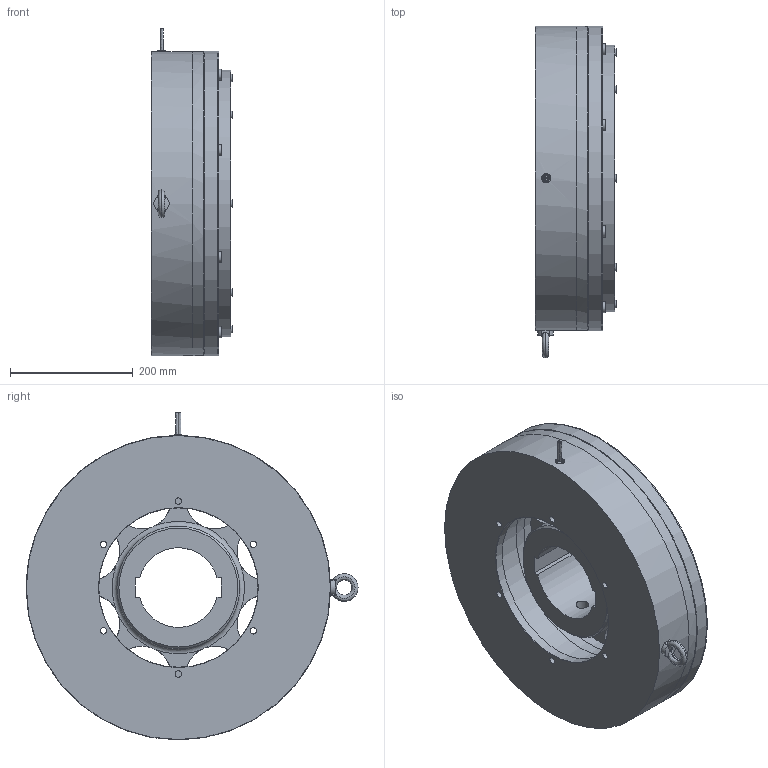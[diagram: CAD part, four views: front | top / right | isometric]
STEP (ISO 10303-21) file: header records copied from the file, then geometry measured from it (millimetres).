
FILE_DESCRIPTION(/* description */ (''),/* implementation_level */ '2;1');
FILE_NAME(/* name */ 'X:\INVENTOR\DISEGNI\08_Freni_Friz_Elettmag_Monodisco\08_28 EMFL_DF\EMFL_DF STEP\08_28_500_13 EMFL500_DF-C-MI@STEP.stp',/* time_stamp */ '2018-04-23T09:41:24+02:00',/* author */ ('stefano'),/* organization */ (''),/* preprocessor_version */ 'ST-DEVELOPER v17',/* originating_system */ 'Autodesk Inventor 2018',/* authorisation */ '');
FILE_SCHEMA (('AUTOMOTIVE_DESIGN { 1 0 10303 214 3 1 1 }'));
Length unit declared in the file: millimetre
Products named in the file (1): 08_28_500_13 EMFL500_DF-C-MI_Substitute_1
Bounding box: 133.5 x 541.5 x 534.72 mm (x, y, z)
Volume: 15912722.5 mm3; surface area: 1322077.8 mm2
Topology: 4 solids, 4 shells, 585 faces, 1739 edges, 1157 vertices
Faces by surface type: cylinder 307, plane 210, cone 52, torus 9, bspline 7
Full cylindrical faces by diameter (mm): 5 x16, 10.5 x6, 12 x9, 15 x1, 18 x24, 20 x16, 20.752 x2, 95 x8, 200 x1, 260 x1, 302 x2, 315 x1, 324 x1, 368 x1, 435 x1, 458 x1, 496 x2, 497 x2
Entity records: 21915 total; most frequent: CARTESIAN_POINT 4587, DIRECTION 3952, ORIENTED_EDGE 3470, EDGE_CURVE 1735, AXIS2_PLACEMENT_3D 1734, VERTEX_POINT 1158, CIRCLE 1137, EDGE_LOOP 742
